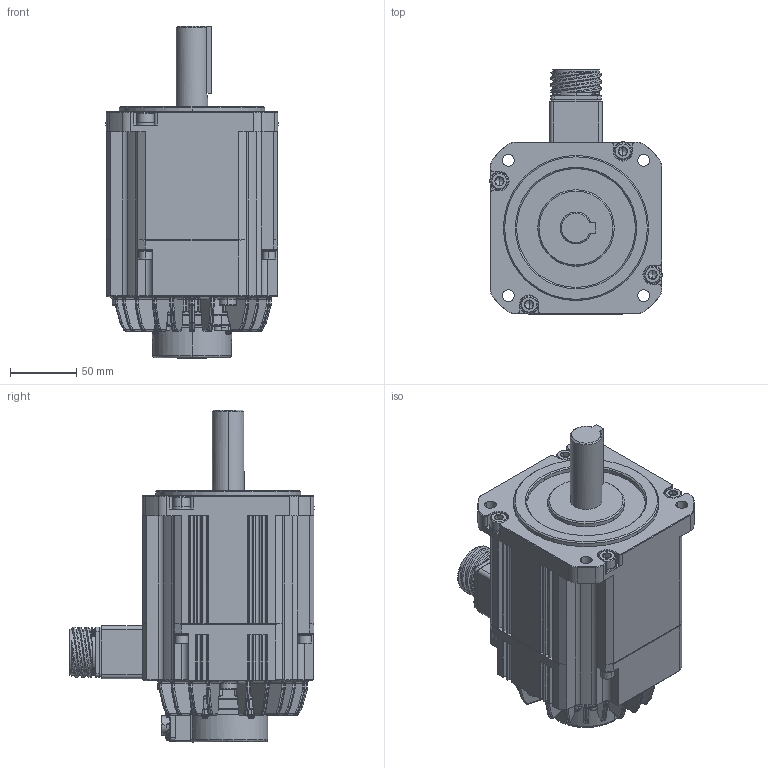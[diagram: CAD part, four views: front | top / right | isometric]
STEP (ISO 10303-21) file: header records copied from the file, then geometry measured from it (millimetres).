
FILE_DESCRIPTION (( 'STEP AP203' ), '1' );
FILE_NAME ('TSM3508N2373E722‘•”z.STEP', '2018-06-26T07:47:58', ( '' ), ( '' ), 'SwSTEP 2.0', 'SolidWorks 2017', '' );
FILE_SCHEMA (( 'CONFIG_CONTROL_DESIGN' ));
Products named in the file (2): TSM3508N2373E722装配; Part17^TSM3508N2373E722装配
Assembly tree (1 placements, depth 2):
  TSM3508N2373E722装配
    Part17^TSM3508N2373E722装配
Bounding box: 130.5 x 185.2 x 251.5 mm (x, y, z)
Volume: 2359379.8 mm3; surface area: 174816.7 mm2
Topology: 1 solids, 24 shells, 3237 faces, 8336 edges, 5138 vertices
Faces by surface type: plane 1060, cylinder 1025, bspline 777, cone 254, sphere 69, torus 52
Entity records: 159944 total; most frequent: CARTESIAN_POINT 88518, ORIENTED_EDGE 16394, DIRECTION 12514, EDGE_CURVE 8197, VERTEX_POINT 5116, AXIS2_PLACEMENT_3D 4411, LINE 3692, VECTOR 3692
